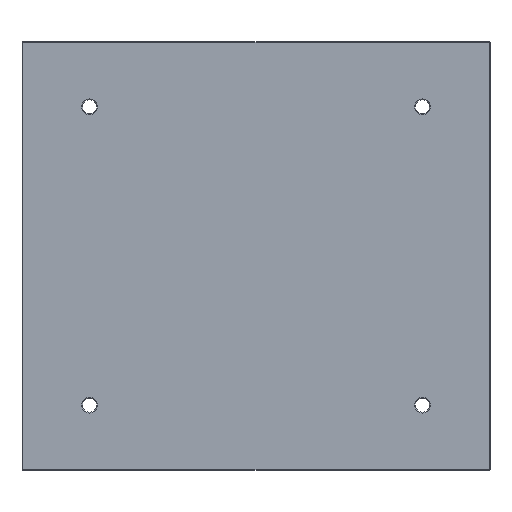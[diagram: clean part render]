
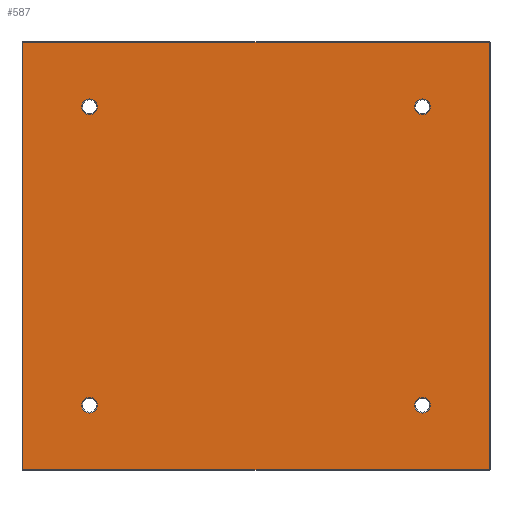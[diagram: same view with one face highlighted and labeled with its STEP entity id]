
A CAD part, front view. The second image highlights one B-rep face of the part: STEP entity #587.
In plain terms, the highlighted planar face has unit normal (0, -1, 0).
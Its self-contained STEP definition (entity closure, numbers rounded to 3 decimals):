
#6 = VERTEX_POINT ( 'NONE', #320 ) ;
#21 = EDGE_LOOP ( 'NONE', ( #1033, #340 ) ) ;
#42 = FACE_OUTER_BOUND ( 'NONE', #497, .T. ) ;
#108 = VERTEX_POINT ( 'NONE', #468 ) ;
#113 = DIRECTION ( 'NONE',  ( 0., 1., 0. ) ) ;
#118 = CARTESIAN_POINT ( 'NONE',  ( 212., 0., -190. ) ) ;
#121 = DIRECTION ( 'NONE',  ( 0., 0., 1. ) ) ;
#129 = DIRECTION ( 'NONE',  ( 0., 1., 0. ) ) ;
#132 = DIRECTION ( 'NONE',  ( 0., 0., 1. ) ) ;
#136 = FACE_BOUND ( 'NONE', #21, .T. ) ;
#138 = CARTESIAN_POINT ( 'NONE',  ( 212., 0., -190. ) ) ;
#168 = ORIENTED_EDGE ( 'NONE', *, *, #1476, .T. ) ;
#175 = ORIENTED_EDGE ( 'NONE', *, *, #516, .T. ) ;
#192 = CARTESIAN_POINT ( 'NONE',  ( 212., 0., -180. ) ) ;
#206 = DIRECTION ( 'NONE',  ( 1., 0., 0. ) ) ;
#221 = FACE_BOUND ( 'NONE', #1640, .T. ) ;
#241 = EDGE_CURVE ( 'NONE', #6, #108, #1154, .T. ) ;
#294 = CIRCLE ( 'NONE', #1155, 10. ) ;
#304 = FACE_BOUND ( 'NONE', #512, .T. ) ;
#320 = CARTESIAN_POINT ( 'NONE',  ( -212., 0., 180. ) ) ;
#340 = ORIENTED_EDGE ( 'NONE', *, *, #603, .T. ) ;
#372 = VERTEX_POINT ( 'NONE', #1456 ) ;
#387 = ORIENTED_EDGE ( 'NONE', *, *, #1019, .T. ) ;
#395 = AXIS2_PLACEMENT_3D ( 'NONE', #1188, #1413, #1234 ) ;
#405 = CARTESIAN_POINT ( 'NONE',  ( 0., 0., 272. ) ) ;
#408 = VERTEX_POINT ( 'NONE', #1113 ) ;
#427 = DIRECTION ( 'NONE',  ( 0., 1., 0. ) ) ;
#445 = DIRECTION ( 'NONE',  ( 0., 0., 1. ) ) ;
#456 = FACE_BOUND ( 'NONE', #1057, .T. ) ;
#468 = CARTESIAN_POINT ( 'NONE',  ( -212., 0., 200. ) ) ;
#483 = CARTESIAN_POINT ( 'NONE',  ( 297., 0., 272. ) ) ;
#497 = EDGE_LOOP ( 'NONE', ( #1329, #817, #639, #1419 ) ) ;
#512 = EDGE_LOOP ( 'NONE', ( #387, #1228 ) ) ;
#516 = EDGE_CURVE ( 'NONE', #748, #626, #1046, .T. ) ;
#524 = VECTOR ( 'NONE', #740, 1000. ) ;
#587 = ADVANCED_FACE ( 'NONE', ( #456, #136, #221, #304, #42 ), #885, .F. ) ;
#603 = EDGE_CURVE ( 'NONE', #1519, #1345, #1364, .T. ) ;
#609 = CARTESIAN_POINT ( 'NONE',  ( -297., 0., 0. ) ) ;
#618 = VECTOR ( 'NONE', #812, 1000. ) ;
#626 = VERTEX_POINT ( 'NONE', #1517 ) ;
#629 = CARTESIAN_POINT ( 'NONE',  ( -212., 0., -180. ) ) ;
#637 = LINE ( 'NONE', #967, #898 ) ;
#639 = ORIENTED_EDGE ( 'NONE', *, *, #1325, .T. ) ;
#666 = AXIS2_PLACEMENT_3D ( 'NONE', #1151, #427, #1530 ) ;
#678 = LINE ( 'NONE', #1452, #1632 ) ;
#689 = EDGE_CURVE ( 'NONE', #108, #6, #959, .T. ) ;
#711 = AXIS2_PLACEMENT_3D ( 'NONE', #926, #1270, #1394 ) ;
#713 = EDGE_CURVE ( 'NONE', #1312, #1366, #1257, .T. ) ;
#718 = DIRECTION ( 'NONE',  ( 0., 0., 1. ) ) ;
#721 = VERTEX_POINT ( 'NONE', #1592 ) ;
#740 = DIRECTION ( 'NONE',  ( 0., 0., -1. ) ) ;
#743 = AXIS2_PLACEMENT_3D ( 'NONE', #1049, #1203, #793 ) ;
#748 = VERTEX_POINT ( 'NONE', #192 ) ;
#760 = ORIENTED_EDGE ( 'NONE', *, *, #241, .T. ) ;
#790 = ORIENTED_EDGE ( 'NONE', *, *, #689, .T. ) ;
#793 = DIRECTION ( 'NONE',  ( 0., 0., 1. ) ) ;
#812 = DIRECTION ( 'NONE',  ( -1., 0., 0. ) ) ;
#817 = ORIENTED_EDGE ( 'NONE', *, *, #713, .T. ) ;
#871 = CARTESIAN_POINT ( 'NONE',  ( -297., 0., 272. ) ) ;
#872 = LINE ( 'NONE', #609, #524 ) ;
#885 = PLANE ( 'NONE',  #711 ) ;
#898 = VECTOR ( 'NONE', #718, 1000. ) ;
#917 = CARTESIAN_POINT ( 'NONE',  ( 212., 0., 200. ) ) ;
#926 = CARTESIAN_POINT ( 'NONE',  ( 0., 0., 0. ) ) ;
#942 = CIRCLE ( 'NONE', #1544, 10. ) ;
#959 = CIRCLE ( 'NONE', #395, 10. ) ;
#967 = CARTESIAN_POINT ( 'NONE',  ( 297., 0., 0. ) ) ;
#1005 = AXIS2_PLACEMENT_3D ( 'NONE', #1643, #1206, #445 ) ;
#1019 = EDGE_CURVE ( 'NONE', #721, #1412, #1613, .T. ) ;
#1033 = ORIENTED_EDGE ( 'NONE', *, *, #1178, .T. ) ;
#1046 = CIRCLE ( 'NONE', #1322, 10. ) ;
#1049 = CARTESIAN_POINT ( 'NONE',  ( 212., 0., 190. ) ) ;
#1057 = EDGE_LOOP ( 'NONE', ( #168, #175 ) ) ;
#1078 = AXIS2_PLACEMENT_3D ( 'NONE', #1375, #1477, #1481 ) ;
#1088 = CIRCLE ( 'NONE', #666, 10. ) ;
#1113 = CARTESIAN_POINT ( 'NONE',  ( 297., 0., -272. ) ) ;
#1146 = EDGE_CURVE ( 'NONE', #372, #408, #678, .T. ) ;
#1151 = CARTESIAN_POINT ( 'NONE',  ( -212., 0., -190. ) ) ;
#1154 = CIRCLE ( 'NONE', #1078, 10. ) ;
#1155 = AXIS2_PLACEMENT_3D ( 'NONE', #1475, #1579, #1588 ) ;
#1178 = EDGE_CURVE ( 'NONE', #1345, #1519, #294, .T. ) ;
#1188 = CARTESIAN_POINT ( 'NONE',  ( -212., 0., 190. ) ) ;
#1203 = DIRECTION ( 'NONE',  ( 0., 1., 0. ) ) ;
#1206 = DIRECTION ( 'NONE',  ( 0., 1., 0. ) ) ;
#1208 = EDGE_CURVE ( 'NONE', #408, #1312, #637, .T. ) ;
#1228 = ORIENTED_EDGE ( 'NONE', *, *, #1607, .T. ) ;
#1234 = DIRECTION ( 'NONE',  ( 0., 0., 1. ) ) ;
#1257 = LINE ( 'NONE', #405, #618 ) ;
#1270 = DIRECTION ( 'NONE',  ( 0., 1., 0. ) ) ;
#1312 = VERTEX_POINT ( 'NONE', #483 ) ;
#1322 = AXIS2_PLACEMENT_3D ( 'NONE', #118, #113, #132 ) ;
#1325 = EDGE_CURVE ( 'NONE', #1366, #372, #872, .T. ) ;
#1329 = ORIENTED_EDGE ( 'NONE', *, *, #1208, .T. ) ;
#1345 = VERTEX_POINT ( 'NONE', #1526 ) ;
#1364 = CIRCLE ( 'NONE', #743, 10. ) ;
#1366 = VERTEX_POINT ( 'NONE', #871 ) ;
#1375 = CARTESIAN_POINT ( 'NONE',  ( -212., 0., 190. ) ) ;
#1394 = DIRECTION ( 'NONE',  ( 0., 0., 1. ) ) ;
#1412 = VERTEX_POINT ( 'NONE', #629 ) ;
#1413 = DIRECTION ( 'NONE',  ( 0., 1., 0. ) ) ;
#1419 = ORIENTED_EDGE ( 'NONE', *, *, #1146, .T. ) ;
#1452 = CARTESIAN_POINT ( 'NONE',  ( 0., 0., -272. ) ) ;
#1456 = CARTESIAN_POINT ( 'NONE',  ( -297., 0., -272. ) ) ;
#1475 = CARTESIAN_POINT ( 'NONE',  ( 212., 0., 190. ) ) ;
#1476 = EDGE_CURVE ( 'NONE', #626, #748, #942, .T. ) ;
#1477 = DIRECTION ( 'NONE',  ( 0., 1., 0. ) ) ;
#1481 = DIRECTION ( 'NONE',  ( 0., 0., 1. ) ) ;
#1517 = CARTESIAN_POINT ( 'NONE',  ( 212., 0., -200. ) ) ;
#1519 = VERTEX_POINT ( 'NONE', #917 ) ;
#1526 = CARTESIAN_POINT ( 'NONE',  ( 212., 0., 180. ) ) ;
#1530 = DIRECTION ( 'NONE',  ( 0., 0., 1. ) ) ;
#1544 = AXIS2_PLACEMENT_3D ( 'NONE', #138, #129, #121 ) ;
#1579 = DIRECTION ( 'NONE',  ( 0., 1., 0. ) ) ;
#1588 = DIRECTION ( 'NONE',  ( 0., 0., 1. ) ) ;
#1592 = CARTESIAN_POINT ( 'NONE',  ( -212., 0., -200. ) ) ;
#1607 = EDGE_CURVE ( 'NONE', #1412, #721, #1088, .T. ) ;
#1613 = CIRCLE ( 'NONE', #1005, 10. ) ;
#1632 = VECTOR ( 'NONE', #206, 1000. ) ;
#1640 = EDGE_LOOP ( 'NONE', ( #760, #790 ) ) ;
#1643 = CARTESIAN_POINT ( 'NONE',  ( -212., 0., -190. ) ) ;
